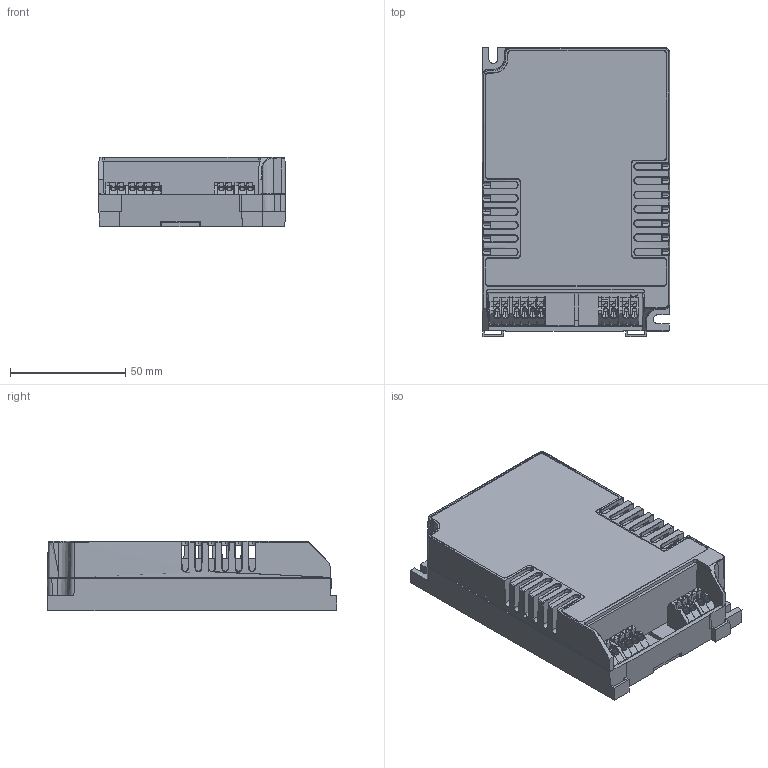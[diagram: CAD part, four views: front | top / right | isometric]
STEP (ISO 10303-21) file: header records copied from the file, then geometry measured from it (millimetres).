
FILE_DESCRIPTION (( 'STEP AP203' ), '1' );
FILE_NAME ('LC1x50-E-DA.STEP', '2015-06-05T11:51:27', ( '' ), ( '' ), 'SwSTEP 2.0', 'SolidWorks 2014', '' );
FILE_SCHEMA (( 'CONFIG_CONTROL_DESIGN' ));
Length unit declared in the file: millimetre
Products named in the file (1): LC1x50-E-DA
Bounding box: 81.04 x 125.32 x 30 mm (x, y, z)
Surface area: 67177.7 mm2 (no closed solid volume)
Topology: 0 solids, 20 shells, 681 faces, 2402 edges, 1664 vertices
Faces by surface type: plane 300, cylinder 252, bspline 116, cone 13
Entity records: 33808 total; most frequent: CARTESIAN_POINT 15490, ORIENTED_EDGE 3966, DIRECTION 3101, EDGE_CURVE 2398, VERTEX_POINT 1664, VECTOR 1469, LINE 1469, AXIS2_PLACEMENT_3D 816
